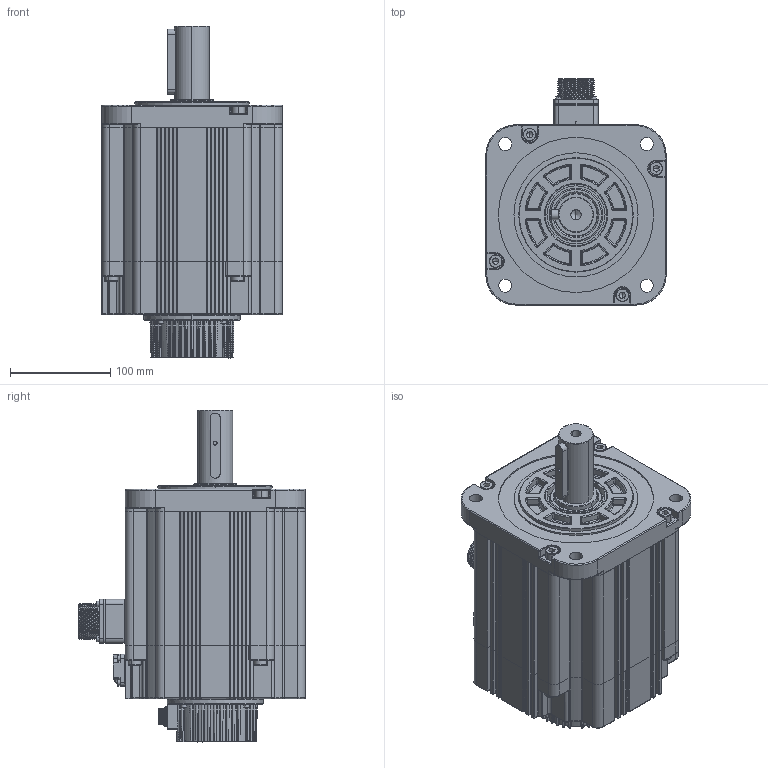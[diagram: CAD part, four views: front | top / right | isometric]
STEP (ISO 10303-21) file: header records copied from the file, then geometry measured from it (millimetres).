
FILE_DESCRIPTION (( 'STEP AP214' ), '1' );
FILE_NAME ('71酗沺郋 湍价陬.STEP', '2021-10-21T01:31:40', ( '' ), ( '' ), 'SwSTEP 2.0', 'SolidWorks 2014', '' );
FILE_SCHEMA (( 'AUTOMOTIVE_DESIGN' ));
Length unit declared in the file: millimetre
Products named in the file (20): す瑩^180#陔萇儂-拸价陬 201021; 埴芛囀鞠褒 ISO 4762 M3 x 8 --- 8N; 180粣-47沺郋; SC180ヶ傷裔1009; 埴芛囀鞠褒 ISO 4762 M3 x 10 --- 10N; 价陬揤盄裔200912; 綴傷裔-111; 埴芛囀鞠褒 ISO 4762 M8 x 30 --- 30N; 180#陔隅赽201019; SC180瑤脣釱1015; 埴芛囀鞠褒 ISO 4762 M3 x 30 --- 18N; SC晤鎢ん欶200908_10郋; 坋趼攫芛蹟佪 M2X8-8  H type-N; SC180儂褲1009; 埴芛囀鞠褒 ISO 4762 M6 x 20 --- 20N; SCSC瑤諾脣芛 16M-9H; SC蚐猾 D00B999YF8-TC 44-62-10; SC180#綴傷裔蹟隊熬傻-201020; SC瑤諾脣芛 24-11-9pin_1.; 71酗沺郋 湍价陬
Assembly tree (40 placements, depth 3):
  71酗沺郋 湍价陬
    180#陔隅赽201019
      SC180儂褲1009
      SC180ヶ傷裔1009
      SC180瑤脣釱1015
    SC晤鎢ん欶200908_10郋
    SCSC瑤諾脣芛 16M-9H
    SC蚐猾 D00B999YF8-TC 44-62-10
    坋趼攫芛蹟佪 M2X8-8  H type-N  x4
    埴芛囀鞠褒 ISO 4762 M3 x 10 --- 10N  x4
    埴芛囀鞠褒 ISO 4762 M8 x 30 --- 30N  x8
    埴芛囀鞠褒 ISO 4762 M3 x 30 --- 18N  x4
    180粣-47沺郋
    す瑩^180#陔萇儂-拸价陬 201021
    綴傷裔-111
      SC180#綴傷裔蹟隊熬傻-201020
    价陬揤盄裔200912
    埴芛囀鞠褒 ISO 4762 M3 x 8 --- 8N  x4
    埴芛囀鞠褒 ISO 4762 M6 x 20 --- 20N  x3
    SC瑤諾脣芛 24-11-9pin_1.
Bounding box: 180 x 226.3 x 331.5 mm (x, y, z)
Volume: 2132759.6 mm3; surface area: 570853 mm2
Topology: 39 solids, 39 shells, 3679 faces, 9082 edges, 5325 vertices
Faces by surface type: cylinder 1276, bspline 1018, plane 1003, cone 290, torus 92
Entity records: 160175 total; most frequent: CARTESIAN_POINT 57522, ORIENTED_EDGE 15060, DIRECTION 13115, EDGE_CURVE 7530, AXIS2_PLACEMENT_3D 5194, VERTEX_POINT 4557, EDGE_LOOP 3347, UNCERTAINTY_MEASURE_WITH_UNIT 3176
